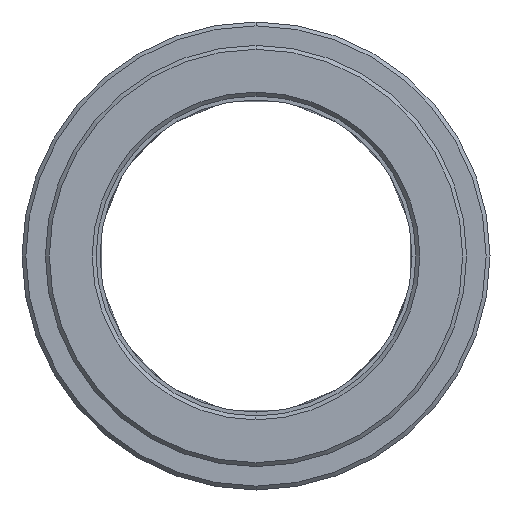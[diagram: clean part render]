
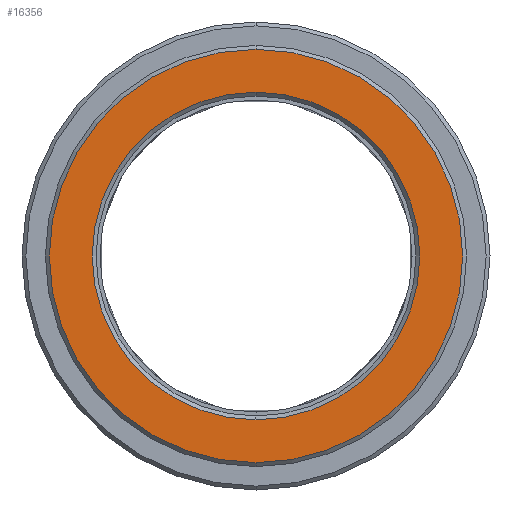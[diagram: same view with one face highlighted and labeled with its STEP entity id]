
A CAD part, left-side view. The second image highlights one B-rep face of the part: STEP entity #16356.
In plain terms, the highlighted planar face has unit normal (-1, 0, 0).
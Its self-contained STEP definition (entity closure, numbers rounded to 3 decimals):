
#6662=CARTESIAN_POINT('',(-10.,0.,
0.));
#6663=DIRECTION('',(1.,0.,0.));
#6664=DIRECTION('',(0.,0.,1.));
#6665=AXIS2_PLACEMENT_3D('',#6662,#6663,#6664);
#6667=CARTESIAN_POINT('',(-10.,0.,
0.));
#6668=DIRECTION('',(1.,0.,0.));
#6669=DIRECTION('',(0.,0.,-1.));
#6670=AXIS2_PLACEMENT_3D('',#6667,#6668,#6669);
#6672=CARTESIAN_POINT('',(-10.,0.,0.));
#6673=DIRECTION('',(1.,0.,0.));
#6674=DIRECTION('',(0.,0.,1.));
#6675=AXIS2_PLACEMENT_3D('',#6672,#6673,#6674);
#6677=CARTESIAN_POINT('',(-10.,0.,
0.));
#6678=DIRECTION('',(1.,0.,0.));
#6679=DIRECTION('',(0.,0.,-1.));
#6680=AXIS2_PLACEMENT_3D('',#6677,#6678,#6679);
#14068=CARTESIAN_POINT('',(-10.,0.,21.));
#14069=CARTESIAN_POINT('',(-10.,0.,-21.));
#14070=VERTEX_POINT('',#14068);
#14071=VERTEX_POINT('',#14069);
#14076=CARTESIAN_POINT('',(-10.,0.,26.5));
#14077=CARTESIAN_POINT('',(-10.,0.,
-26.5));
#14078=VERTEX_POINT('',#14076);
#14079=VERTEX_POINT('',#14077);
#16340=CARTESIAN_POINT('',(-10.,0.,0.));
#16341=DIRECTION('',(1.,0.,0.));
#16342=DIRECTION('',(0.,0.,1.));
#16343=AXIS2_PLACEMENT_3D('',#16340,#16341,#16342);
#16344=PLANE('',#16343);
#16346=ORIENTED_EDGE('',*,*,#16345,.T.);
#16348=ORIENTED_EDGE('',*,*,#16347,.T.);
#16349=EDGE_LOOP('',(#16346,#16348));
#16350=FACE_OUTER_BOUND('',#16349,.F.);
#16351=ORIENTED_EDGE('',*,*,#16330,.F.);
#16353=ORIENTED_EDGE('',*,*,#16352,.F.);
#16354=EDGE_LOOP('',(#16351,#16353));
#16355=FACE_BOUND('',#16354,.F.);
#16356=ADVANCED_FACE('',(#16350,#16355),#16344,.F.);
#6666=CIRCLE('',#6665,26.5);
#6671=CIRCLE('',#6670,26.5);
#6676=CIRCLE('',#6675,21.);
#6681=CIRCLE('',#6680,21.);
#16330=EDGE_CURVE('',#14070,#14071,#6676,.T.);
#16345=EDGE_CURVE('',#14078,#14079,#6666,.T.);
#16347=EDGE_CURVE('',#14079,#14078,#6671,.T.);
#16352=EDGE_CURVE('',#14071,#14070,#6681,.T.);
